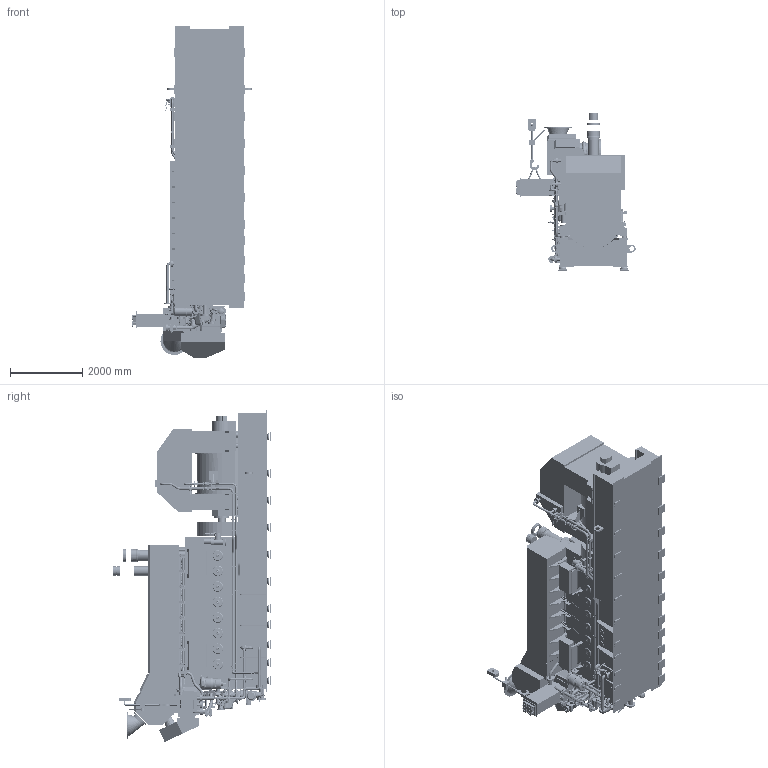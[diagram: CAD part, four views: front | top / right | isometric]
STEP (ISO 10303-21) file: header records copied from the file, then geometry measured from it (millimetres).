
FILE_DESCRIPTION((''),'2;1');
FILE_NAME('8M25E_GENSET_STP_ASM','2015-11-17T',('frickbd'),('Caterpillar Motoren GmbH & Co.KG'),'PRO/ENGINEER BY PARAMETRIC TECHNOLOGY CORPORATION, 2014200','PRO/ENGINEER BY PARAMETRIC TECHNOLOGY CORPORATION, 2014200','');
FILE_SCHEMA(('CONFIG_CONTROL_DESIGN'));
Products named in the file (7): 8M25E_GENSET_STP_REM_SPAC_P01; 8M25E_GENSET_STP_RESIL_MO_P01; 8M25E_GENSET_STP_ENGINE_P01; 8M25E_GENSET_STP_COMPLETE_P01; 8M25E_GENSET_STP_WITH_GEN_P01; 8M25E_GENSET_STP_STD_P01; 8M25E_GENSET_STP_ASM
Assembly tree (6 placements, depth 2):
  8M25E_GENSET_STP_ASM
    8M25E_GENSET_STP_REM_SPAC_P01
    8M25E_GENSET_STP_RESIL_MO_P01
    8M25E_GENSET_STP_ENGINE_P01
    8M25E_GENSET_STP_COMPLETE_P01
    8M25E_GENSET_STP_WITH_GEN_P01
    8M25E_GENSET_STP_STD_P01
Bounding box: 3298.28 x 4359 x 9186.95 mm (x, y, z)
Surface area: 331316654.7 mm2 (no closed solid volume)
Topology: 0 solids, 1456 shells, 8326 faces, 36917 edges, 29324 vertices
Faces by surface type: plane 4127, cylinder 3130, torus 496, bspline 322, cone 215, sphere 21, extrusion 10, revolution 5
Entity records: 491888 total; most frequent: CARTESIAN_POINT 148706, DIRECTION 64359, ORIENTED_EDGE 51209, EDGE_CURVE 36891, VERTEX_POINT 29327, AXIS2_PLACEMENT_3D 22954, VECTOR 18446, LINE 18436
